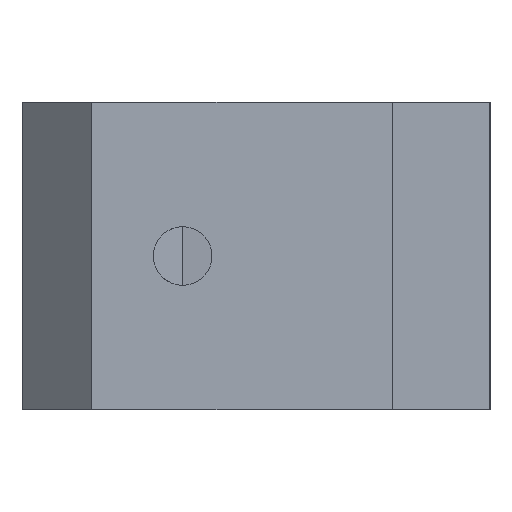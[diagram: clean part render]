
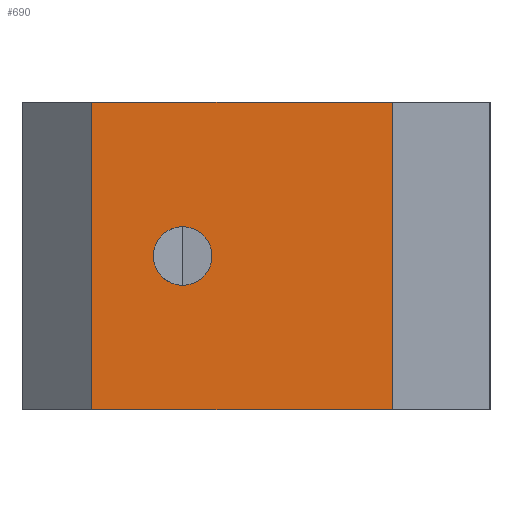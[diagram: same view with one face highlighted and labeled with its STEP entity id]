
A CAD part, left-side view. The second image highlights one B-rep face of the part: STEP entity #690.
In plain terms, the highlighted planar face has unit normal (-1, 0, 0).
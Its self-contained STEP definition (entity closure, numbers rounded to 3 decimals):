
#3 = EDGE_LOOP ( 'NONE', ( #371, #183 ) ) ;
#16 = LINE ( 'NONE', #360, #663 ) ;
#36 = CARTESIAN_POINT ( 'NONE',  ( -17., 11.75, 11. ) ) ;
#66 = FACE_BOUND ( 'NONE', #3, .T. ) ;
#81 = ORIENTED_EDGE ( 'NONE', *, *, #465, .F. ) ;
#91 = VERTEX_POINT ( 'NONE', #598 ) ;
#116 = CARTESIAN_POINT ( 'NONE',  ( -17., -9.75, 11. ) ) ;
#177 = ORIENTED_EDGE ( 'NONE', *, *, #333, .T. ) ;
#181 = DIRECTION ( 'NONE',  ( 0., 1., 0. ) ) ;
#183 = ORIENTED_EDGE ( 'NONE', *, *, #694, .F. ) ;
#194 = PLANE ( 'NONE',  #475 ) ;
#221 = CARTESIAN_POINT ( 'NONE',  ( -17., 16.75, -11. ) ) ;
#230 = VECTOR ( 'NONE', #181, 1000. ) ;
#237 = VERTEX_POINT ( 'NONE', #775 ) ;
#250 = VERTEX_POINT ( 'NONE', #568 ) ;
#282 = DIRECTION ( 'NONE',  ( 0., 0., 1. ) ) ;
#296 = EDGE_LOOP ( 'NONE', ( #177, #579, #81, #684 ) ) ;
#323 = LINE ( 'NONE', #877, #230 ) ;
#333 = EDGE_CURVE ( 'NONE', #527, #615, #323, .T. ) ;
#355 = CARTESIAN_POINT ( 'NONE',  ( -17., 5.25, 0. ) ) ;
#360 = CARTESIAN_POINT ( 'NONE',  ( -17., -9.75, -11. ) ) ;
#371 = ORIENTED_EDGE ( 'NONE', *, *, #677, .F. ) ;
#373 = CARTESIAN_POINT ( 'NONE',  ( -17., 11.75, -11. ) ) ;
#413 = DIRECTION ( 'NONE',  ( 0., 0., 1. ) ) ;
#425 = CARTESIAN_POINT ( 'NONE',  ( -17., 5.25, 0. ) ) ;
#428 = EDGE_CURVE ( 'NONE', #615, #509, #569, .T. ) ;
#430 = DIRECTION ( 'NONE',  ( 0., 1., 0. ) ) ;
#434 = EDGE_CURVE ( 'NONE', #91, #527, #16, .T. ) ;
#465 = EDGE_CURVE ( 'NONE', #91, #509, #776, .T. ) ;
#473 = AXIS2_PLACEMENT_3D ( 'NONE', #425, #560, #282 ) ;
#475 = AXIS2_PLACEMENT_3D ( 'NONE', #625, #763, #548 ) ;
#487 = CIRCLE ( 'NONE', #556, 2.1 ) ;
#499 = DIRECTION ( 'NONE',  ( -1., 0., 0. ) ) ;
#509 = VERTEX_POINT ( 'NONE', #751 ) ;
#527 = VERTEX_POINT ( 'NONE', #116 ) ;
#548 = DIRECTION ( 'NONE',  ( 0., 1., 0. ) ) ;
#556 = AXIS2_PLACEMENT_3D ( 'NONE', #355, #499, #413 ) ;
#560 = DIRECTION ( 'NONE',  ( -1., 0., 0. ) ) ;
#568 = CARTESIAN_POINT ( 'NONE',  ( -17., 5.25, -2.1 ) ) ;
#569 = LINE ( 'NONE', #373, #570 ) ;
#570 = VECTOR ( 'NONE', #661, 1000. ) ;
#579 = ORIENTED_EDGE ( 'NONE', *, *, #428, .T. ) ;
#598 = CARTESIAN_POINT ( 'NONE',  ( -17., -9.75, -11. ) ) ;
#605 = CIRCLE ( 'NONE', #473, 2.1 ) ;
#615 = VERTEX_POINT ( 'NONE', #36 ) ;
#625 = CARTESIAN_POINT ( 'NONE',  ( -17., 16.75, -11. ) ) ;
#661 = DIRECTION ( 'NONE',  ( 0., 0., -1. ) ) ;
#663 = VECTOR ( 'NONE', #861, 1000. ) ;
#677 = EDGE_CURVE ( 'NONE', #237, #250, #487, .T. ) ;
#684 = ORIENTED_EDGE ( 'NONE', *, *, #434, .T. ) ;
#690 = ADVANCED_FACE ( 'NONE', ( #66, #691 ), #194, .F. ) ;
#691 = FACE_OUTER_BOUND ( 'NONE', #296, .T. ) ;
#694 = EDGE_CURVE ( 'NONE', #250, #237, #605, .T. ) ;
#751 = CARTESIAN_POINT ( 'NONE',  ( -17., 11.75, -11. ) ) ;
#763 = DIRECTION ( 'NONE',  ( 1., 0., 0. ) ) ;
#775 = CARTESIAN_POINT ( 'NONE',  ( -17., 5.25, 2.1 ) ) ;
#776 = LINE ( 'NONE', #221, #860 ) ;
#860 = VECTOR ( 'NONE', #430, 1000. ) ;
#861 = DIRECTION ( 'NONE',  ( 0., 0., 1. ) ) ;
#877 = CARTESIAN_POINT ( 'NONE',  ( -17., 16.75, 11. ) ) ;
